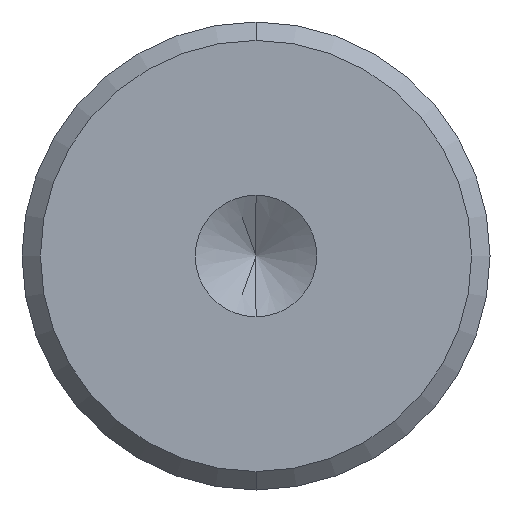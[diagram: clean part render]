
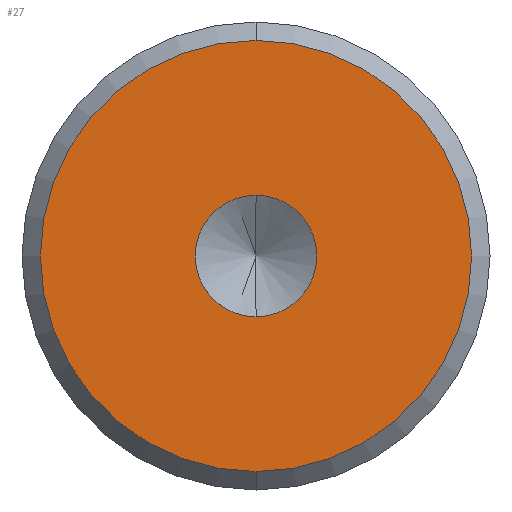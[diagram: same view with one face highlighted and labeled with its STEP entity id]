
A CAD part, front view. The second image highlights one B-rep face of the part: STEP entity #27.
In plain terms, the highlighted planar face has unit normal (0, -1, 0).
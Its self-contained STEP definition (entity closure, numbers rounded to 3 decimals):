
#15 = DIRECTION ( 'NONE',  ( 0., -1., 0. ) ) ;
#16 = CARTESIAN_POINT ( 'NONE',  ( 0., 0., 1.65 ) ) ;
#19 = DIRECTION ( 'NONE',  ( 0., 0., 1. ) ) ;
#27 = ADVANCED_FACE ( 'NONE', ( #451, #406 ), #263, .F. ) ;
#30 = ORIENTED_EDGE ( 'NONE', *, *, #481, .T. ) ;
#55 = DIRECTION ( 'NONE',  ( 0., 0., 1. ) ) ;
#72 = ORIENTED_EDGE ( 'NONE', *, *, #426, .F. ) ;
#78 = CIRCLE ( 'NONE', #446, 1.65 ) ;
#86 = DIRECTION ( 'NONE',  ( 0., 0., -1. ) ) ;
#103 = CARTESIAN_POINT ( 'NONE',  ( 0., 0., 0. ) ) ;
#108 = CIRCLE ( 'NONE', #394, 5.85 ) ;
#122 = CARTESIAN_POINT ( 'NONE',  ( 0., 0., 0. ) ) ;
#134 = CIRCLE ( 'NONE', #434, 5.85 ) ;
#146 = CARTESIAN_POINT ( 'NONE',  ( 0., 0., 0. ) ) ;
#176 = VERTEX_POINT ( 'NONE', #326 ) ;
#180 = CIRCLE ( 'NONE', #457, 1.65 ) ;
#221 = ORIENTED_EDGE ( 'NONE', *, *, #370, .F. ) ;
#244 = AXIS2_PLACEMENT_3D ( 'NONE', #146, #335, #341 ) ;
#260 = VERTEX_POINT ( 'NONE', #276 ) ;
#262 = DIRECTION ( 'NONE',  ( 0., -1., 0. ) ) ;
#263 = PLANE ( 'NONE',  #244 ) ;
#275 = EDGE_CURVE ( 'NONE', #260, #176, #134, .T. ) ;
#276 = CARTESIAN_POINT ( 'NONE',  ( 0., 0., -5.85 ) ) ;
#290 = DIRECTION ( 'NONE',  ( 0., -1., 0. ) ) ;
#326 = CARTESIAN_POINT ( 'NONE',  ( 0., 0., 5.85 ) ) ;
#333 = DIRECTION ( 'NONE',  ( 0., -1., 0. ) ) ;
#335 = DIRECTION ( 'NONE',  ( 0., 1., 0. ) ) ;
#341 = DIRECTION ( 'NONE',  ( 0., 0., 1. ) ) ;
#358 = EDGE_LOOP ( 'NONE', ( #30, #376 ) ) ;
#370 = EDGE_CURVE ( 'NONE', #505, #372, #78, .T. ) ;
#372 = VERTEX_POINT ( 'NONE', #399 ) ;
#374 = CARTESIAN_POINT ( 'NONE',  ( 0., 0., 0. ) ) ;
#376 = ORIENTED_EDGE ( 'NONE', *, *, #275, .T. ) ;
#394 = AXIS2_PLACEMENT_3D ( 'NONE', #423, #333, #55 ) ;
#399 = CARTESIAN_POINT ( 'NONE',  ( 0., 0., -1.65 ) ) ;
#406 = FACE_OUTER_BOUND ( 'NONE', #358, .T. ) ;
#412 = DIRECTION ( 'NONE',  ( 0., 0., -1. ) ) ;
#423 = CARTESIAN_POINT ( 'NONE',  ( 0., 0., 0. ) ) ;
#426 = EDGE_CURVE ( 'NONE', #372, #505, #180, .T. ) ;
#431 = EDGE_LOOP ( 'NONE', ( #72, #221 ) ) ;
#434 = AXIS2_PLACEMENT_3D ( 'NONE', #122, #15, #19 ) ;
#446 = AXIS2_PLACEMENT_3D ( 'NONE', #374, #290, #86 ) ;
#451 = FACE_BOUND ( 'NONE', #431, .T. ) ;
#457 = AXIS2_PLACEMENT_3D ( 'NONE', #103, #262, #412 ) ;
#481 = EDGE_CURVE ( 'NONE', #176, #260, #108, .T. ) ;
#505 = VERTEX_POINT ( 'NONE', #16 ) ;
